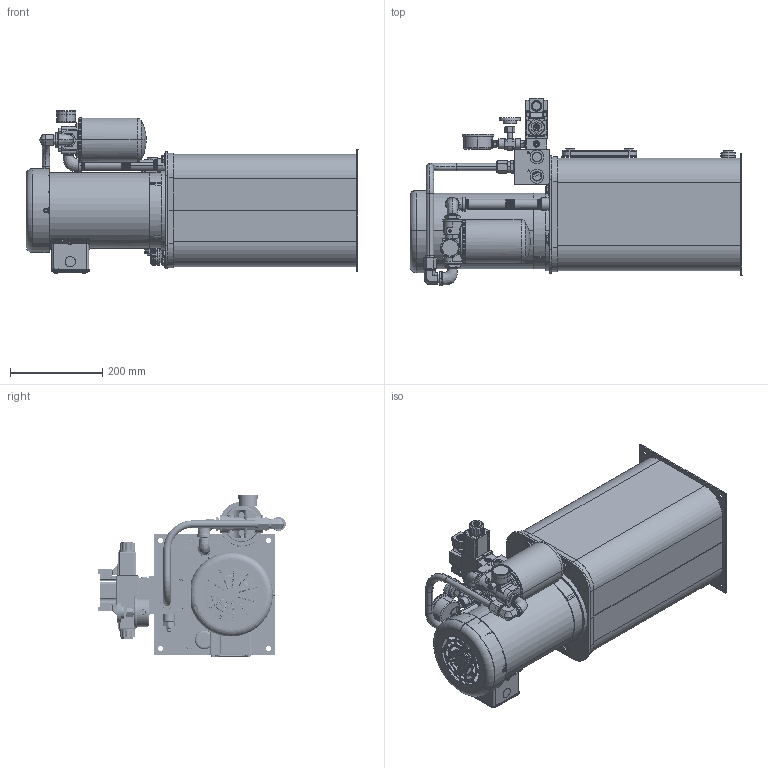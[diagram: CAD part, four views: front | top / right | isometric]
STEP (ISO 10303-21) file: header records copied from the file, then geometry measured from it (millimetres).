
FILE_DESCRIPTION (( 'STEP AP214' ), '1' );
FILE_NAME ('T5V-20-M-P1-F1-069.STEP', '2021-09-27T00:36:24', ( '' ), ( '' ), 'SwSTEP 2.0', 'SolidWorks 2020', '' );
FILE_SCHEMA (( 'AUTOMOTIVE_DESIGN' ));
Length unit declared in the file: inch
Products named in the file (1): T5V-20-M-P1-F1-069
Bounding box: 720.75 x 407.03 x 351.82 mm (x, y, z)
Surface area: 1269478.7 mm2 (no closed solid volume)
Topology: 0 solids, 153 shells, 2104 faces, 8887 edges, 6717 vertices
Faces by surface type: plane 766, cylinder 636, cone 385, bspline 166, torus 121, sphere 30
Entity records: 182545 total; most frequent: CARTESIAN_POINT 87111, DIRECTION 13151, ORIENTED_EDGE 12910, EDGE_CURVE 8864, VERTEX_POINT 6717, AXIS2_PLACEMENT_3D 4561, LINE 4029, VECTOR 4029
